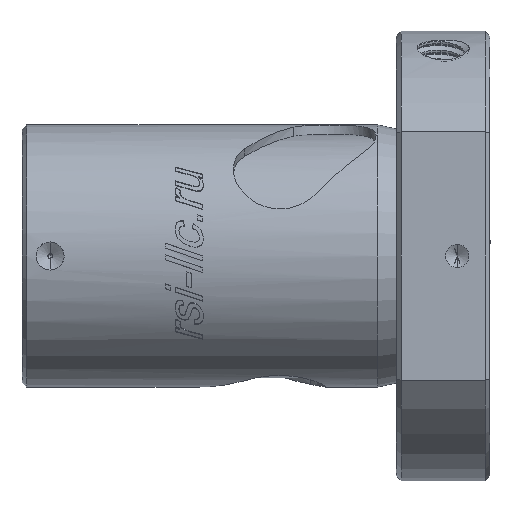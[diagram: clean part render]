
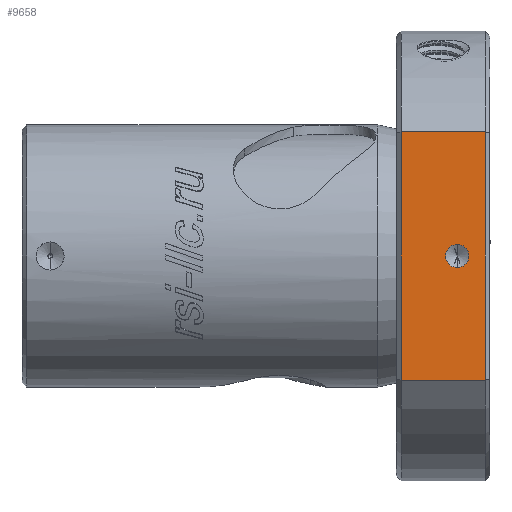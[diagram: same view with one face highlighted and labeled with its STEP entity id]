
A CAD part, left-side view. The second image highlights one B-rep face of the part: STEP entity #9658.
In plain terms, the highlighted planar face has unit normal (-1, 0, 0).
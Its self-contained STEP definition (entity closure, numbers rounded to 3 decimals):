
#812 = CARTESIAN_POINT ( 'NONE',  ( -20., -4.5, -13.266 ) ) ;
#1218 = DIRECTION ( 'NONE',  ( 0., 0., 1. ) ) ;
#2100 = DIRECTION ( 'NONE',  ( 0., 0., 1. ) ) ;
#2612 = CARTESIAN_POINT ( 'NONE',  ( -20., -1.5, -1.25 ) ) ;
#2958 = VERTEX_POINT ( 'NONE', #31335 ) ;
#2979 = CIRCLE ( 'NONE', #21227, 1.25 ) ;
#3039 = ORIENTED_EDGE ( 'NONE', *, *, #7190, .F. ) ;
#3687 = VERTEX_POINT ( 'NONE', #13439 ) ;
#5246 = VECTOR ( 'NONE', #7316, 1000. ) ;
#5643 = DIRECTION ( 'NONE',  ( 0., -1., 0. ) ) ;
#6853 = EDGE_LOOP ( 'NONE', ( #15934, #24749, #19089, #29071 ) ) ;
#7031 = ORIENTED_EDGE ( 'NONE', *, *, #26439, .F. ) ;
#7190 = EDGE_CURVE ( 'NONE', #21498, #2958, #24175, .T. ) ;
#7316 = DIRECTION ( 'NONE',  ( 0., -1., 0. ) ) ;
#8136 = EDGE_CURVE ( 'NONE', #27153, #31651, #24959, .T. ) ;
#9658 = ADVANCED_FACE ( 'NONE', ( #30511, #10010 ), #25747, .F. ) ;
#9813 = CARTESIAN_POINT ( 'NONE',  ( -20., 5., -13.266 ) ) ;
#10010 = FACE_OUTER_BOUND ( 'NONE', #6853, .T. ) ;
#10059 = LINE ( 'NONE', #21037, #10845 ) ;
#10349 = DIRECTION ( 'NONE',  ( 1., 0., 0. ) ) ;
#10398 = VECTOR ( 'NONE', #5643, 1000. ) ;
#10845 = VECTOR ( 'NONE', #23624, 1000. ) ;
#11112 = EDGE_LOOP ( 'NONE', ( #7031, #3039 ) ) ;
#11943 = VERTEX_POINT ( 'NONE', #29018 ) ;
#13439 = CARTESIAN_POINT ( 'NONE',  ( -20., 4.5, 13.266 ) ) ;
#15363 = DIRECTION ( 'NONE',  ( 0., 0., 1. ) ) ;
#15934 = ORIENTED_EDGE ( 'NONE', *, *, #8136, .T. ) ;
#16594 = DIRECTION ( 'NONE',  ( -1., 0., 0. ) ) ;
#17492 = DIRECTION ( 'NONE',  ( -1., 0., 0. ) ) ;
#17682 = CARTESIAN_POINT ( 'NONE',  ( -20., 5., -13.266 ) ) ;
#18510 = EDGE_CURVE ( 'NONE', #3687, #27153, #10059, .T. ) ;
#19089 = ORIENTED_EDGE ( 'NONE', *, *, #19798, .F. ) ;
#19798 = EDGE_CURVE ( 'NONE', #3687, #11943, #24107, .T. ) ;
#20706 = VECTOR ( 'NONE', #15363, 1000. ) ;
#21037 = CARTESIAN_POINT ( 'NONE',  ( -20., 4.5, -13.266 ) ) ;
#21052 = CARTESIAN_POINT ( 'NONE',  ( -20., 5., 13.266 ) ) ;
#21227 = AXIS2_PLACEMENT_3D ( 'NONE', #31979, #16594, #1218 ) ;
#21498 = VERTEX_POINT ( 'NONE', #2612 ) ;
#23468 = EDGE_CURVE ( 'NONE', #31651, #11943, #32739, .T. ) ;
#23624 = DIRECTION ( 'NONE',  ( 0., 0., -1. ) ) ;
#24107 = LINE ( 'NONE', #21052, #10398 ) ;
#24175 = CIRCLE ( 'NONE', #26392, 1.25 ) ;
#24749 = ORIENTED_EDGE ( 'NONE', *, *, #23468, .T. ) ;
#24959 = LINE ( 'NONE', #17682, #5246 ) ;
#25747 = PLANE ( 'NONE',  #26628 ) ;
#26392 = AXIS2_PLACEMENT_3D ( 'NONE', #32863, #17492, #2100 ) ;
#26439 = EDGE_CURVE ( 'NONE', #2958, #21498, #2979, .T. ) ;
#26628 = AXIS2_PLACEMENT_3D ( 'NONE', #9813, #10349, #28328 ) ;
#27153 = VERTEX_POINT ( 'NONE', #32956 ) ;
#28328 = DIRECTION ( 'NONE',  ( 0., 0., -1. ) ) ;
#29018 = CARTESIAN_POINT ( 'NONE',  ( -20., -4.5, 13.266 ) ) ;
#29071 = ORIENTED_EDGE ( 'NONE', *, *, #18510, .T. ) ;
#30078 = CARTESIAN_POINT ( 'NONE',  ( -20., -4.5, -13.266 ) ) ;
#30511 = FACE_BOUND ( 'NONE', #11112, .T. ) ;
#31335 = CARTESIAN_POINT ( 'NONE',  ( -20., -1.5, 1.25 ) ) ;
#31651 = VERTEX_POINT ( 'NONE', #812 ) ;
#31979 = CARTESIAN_POINT ( 'NONE',  ( -20., -1.5, 0. ) ) ;
#32739 = LINE ( 'NONE', #30078, #20706 ) ;
#32863 = CARTESIAN_POINT ( 'NONE',  ( -20., -1.5, 0. ) ) ;
#32956 = CARTESIAN_POINT ( 'NONE',  ( -20., 4.5, -13.266 ) ) ;
